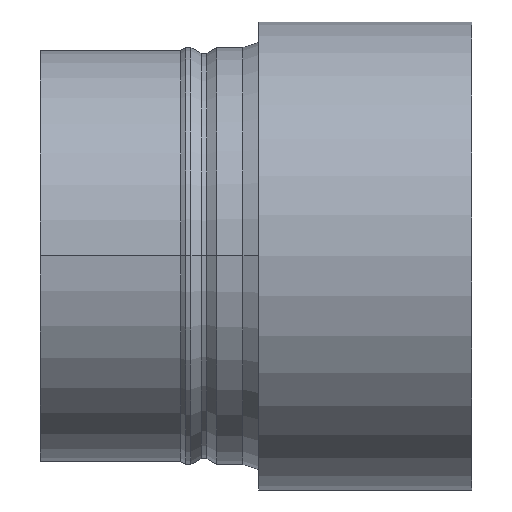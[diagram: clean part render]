
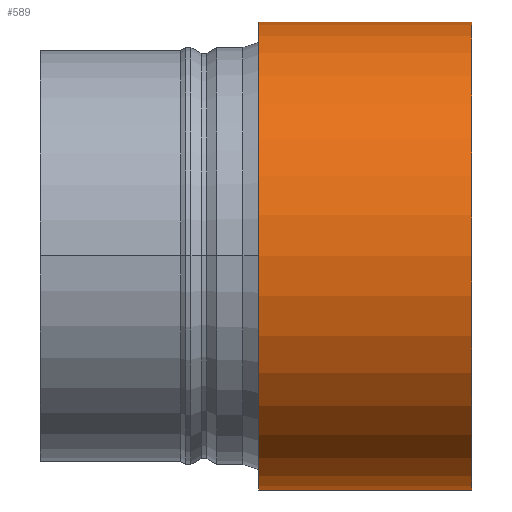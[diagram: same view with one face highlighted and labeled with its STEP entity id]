
A CAD part, top view. The second image highlights one B-rep face of the part: STEP entity #589.
In plain terms, the highlighted cylindrical face has radius 45 mm (diameter 90 mm), a partial arc.
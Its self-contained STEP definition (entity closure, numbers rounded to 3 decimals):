
#11 = EDGE_CURVE ( 'NONE', #259, #15, #409, .T. ) ;
#14 = VERTEX_POINT ( 'NONE', #20 ) ;
#15 = VERTEX_POINT ( 'NONE', #62 ) ;
#17 = EDGE_LOOP ( 'NONE', ( #292, #117, #602, #43 ) ) ;
#20 = CARTESIAN_POINT ( 'NONE',  ( 42., 45., 0. ) ) ;
#26 = CARTESIAN_POINT ( 'NONE',  ( 83., -45., 0. ) ) ;
#27 = CYLINDRICAL_SURFACE ( 'NONE', #576, 45. ) ;
#34 = DIRECTION ( 'NONE',  ( -1., 0., 0. ) ) ;
#43 = ORIENTED_EDGE ( 'NONE', *, *, #11, .F. ) ;
#62 = CARTESIAN_POINT ( 'NONE',  ( 42., -45., 0. ) ) ;
#80 = DIRECTION ( 'NONE',  ( 1., 0., 0. ) ) ;
#93 = EDGE_CURVE ( 'NONE', #227, #259, #538, .T. ) ;
#117 = ORIENTED_EDGE ( 'NONE', *, *, #610, .T. ) ;
#172 = CARTESIAN_POINT ( 'NONE',  ( 83., 0., 0. ) ) ;
#181 = DIRECTION ( 'NONE',  ( 1., 0., 0. ) ) ;
#182 = LINE ( 'NONE', #641, #554 ) ;
#186 = DIRECTION ( 'NONE',  ( 0., 1., 0. ) ) ;
#202 = FACE_OUTER_BOUND ( 'NONE', #17, .T. ) ;
#212 = AXIS2_PLACEMENT_3D ( 'NONE', #172, #181, #186 ) ;
#227 = VERTEX_POINT ( 'NONE', #299 ) ;
#259 = VERTEX_POINT ( 'NONE', #307 ) ;
#292 = ORIENTED_EDGE ( 'NONE', *, *, #93, .F. ) ;
#299 = CARTESIAN_POINT ( 'NONE',  ( 83., 45., 0. ) ) ;
#307 = CARTESIAN_POINT ( 'NONE',  ( 83., -45., 0. ) ) ;
#327 = CARTESIAN_POINT ( 'NONE',  ( 42., 0., 0. ) ) ;
#368 = EDGE_CURVE ( 'NONE', #14, #15, #487, .T. ) ;
#409 = LINE ( 'NONE', #26, #572 ) ;
#468 = DIRECTION ( 'NONE',  ( 0., -1., 0. ) ) ;
#481 = DIRECTION ( 'NONE',  ( -1., 0., 0. ) ) ;
#487 = CIRCLE ( 'NONE', #614, 45. ) ;
#496 = CARTESIAN_POINT ( 'NONE',  ( 83., 0., 0. ) ) ;
#499 = DIRECTION ( 'NONE',  ( 0., 1., 0. ) ) ;
#538 = CIRCLE ( 'NONE', #212, 45. ) ;
#554 = VECTOR ( 'NONE', #621, 1000. ) ;
#572 = VECTOR ( 'NONE', #34, 1000. ) ;
#576 = AXIS2_PLACEMENT_3D ( 'NONE', #496, #481, #468 ) ;
#589 = ADVANCED_FACE ( 'NONE', ( #202 ), #27, .T. ) ;
#602 = ORIENTED_EDGE ( 'NONE', *, *, #368, .T. ) ;
#610 = EDGE_CURVE ( 'NONE', #227, #14, #182, .T. ) ;
#614 = AXIS2_PLACEMENT_3D ( 'NONE', #327, #80, #499 ) ;
#621 = DIRECTION ( 'NONE',  ( -1., 0., 0. ) ) ;
#641 = CARTESIAN_POINT ( 'NONE',  ( 83., 45., 0. ) ) ;
